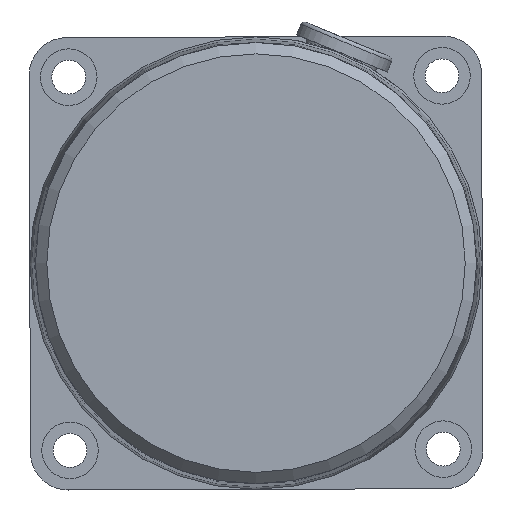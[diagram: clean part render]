
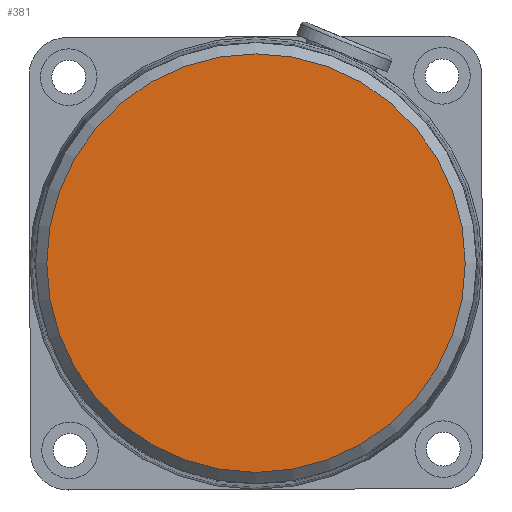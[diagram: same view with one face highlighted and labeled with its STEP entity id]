
A CAD part, left-side view. The second image highlights one B-rep face of the part: STEP entity #381.
In plain terms, the highlighted planar face has unit normal (-1, 0, 0).
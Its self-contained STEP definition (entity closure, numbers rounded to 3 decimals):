
#365=CARTESIAN_POINT('',(0.,13.875,0.0));
#366=DIRECTION('',(-1.0,0.0,0.0));
#367=DIRECTION('',(0.0,0.0,1.0));
#368=AXIS2_PLACEMENT_3D('',#365,#366,#367);
#369=PLANE('',#368);
#370=CARTESIAN_POINT('',(0.,27.75,0.0));
#371=VERTEX_POINT('',#370);
#372=CARTESIAN_POINT('',(0.,0.0,0.0));
#373=DIRECTION('',(1.0,0.0,0.0));
#374=DIRECTION('',(0.0,1.0,0.0));
#375=AXIS2_PLACEMENT_3D('',#372,#373,#374);
#376=CIRCLE('',#375,27.75);
#377=EDGE_CURVE('',#371,#371,#376,.T.);
#378=ORIENTED_EDGE('',*,*,#377,.F.);
#379=EDGE_LOOP('',(#378));
#380=FACE_OUTER_BOUND('',#379,.T.);
#381=ADVANCED_FACE('',(#380),#369,.T.);
